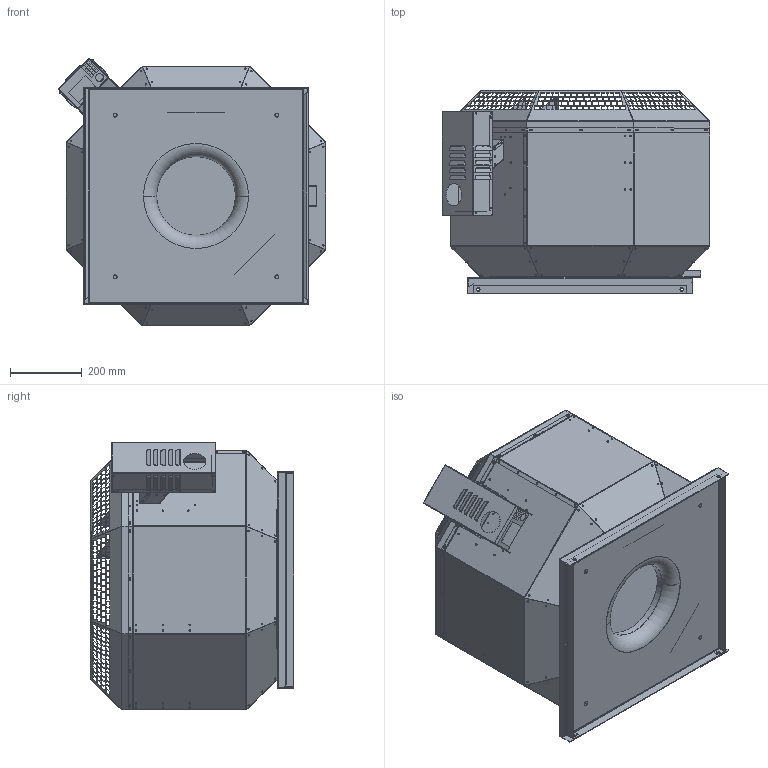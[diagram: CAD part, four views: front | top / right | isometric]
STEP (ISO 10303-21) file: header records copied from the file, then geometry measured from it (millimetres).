
FILE_DESCRIPTION (( 'STEP AP203' ), '1' );
FILE_NAME ('142184-01_DVN355EC30_step.step', '2018-08-06T11:29:45', ( '' ), ( '' ), 'SwSTEP 2.0', 'SolidWorks 2017', '' );
FILE_SCHEMA (( 'CONFIG_CONTROL_DESIGN' ));
Length unit declared in the file: millimetre
Products named in the file (1): 142184-01_DVN355EC30_step
Bounding box: 744.33 x 565.01 x 744.33 mm (x, y, z)
Surface area: 4514165 mm2 (no closed solid volume)
Topology: 0 solids, 31 shells, 2363 faces, 13400 edges, 10110 vertices
Faces by surface type: plane 1892, cylinder 386, bspline 81, torus 4
Entity records: 148562 total; most frequent: CARTESIAN_POINT 44102, DIRECTION 18996, ORIENTED_EDGE 18731, EDGE_CURVE 13400, LINE 11514, VECTOR 11514, VERTEX_POINT 10110, EDGE_LOOP 4873
